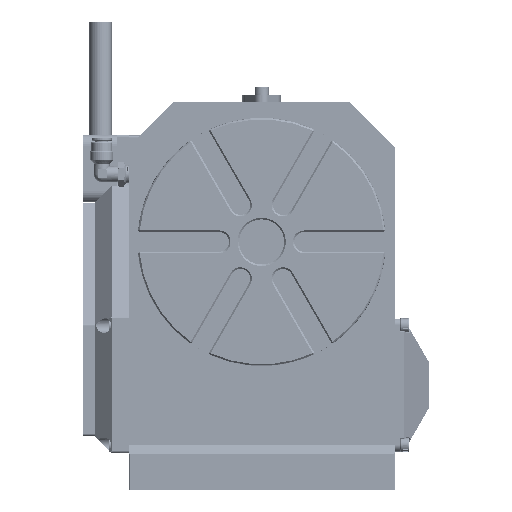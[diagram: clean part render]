
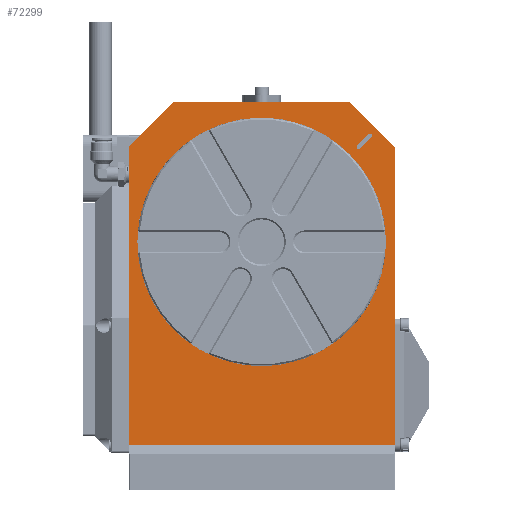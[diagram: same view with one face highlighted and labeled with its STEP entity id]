
A CAD part, front view. The second image highlights one B-rep face of the part: STEP entity #72299.
In plain terms, the highlighted planar face has unit normal (0, -1, 0).
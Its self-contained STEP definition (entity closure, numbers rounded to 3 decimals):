
#2503=FACE_BOUND('',#11173,.T.);
#2504=FACE_BOUND('',#11174,.T.);
#3218=CIRCLE('',#76904,0.05);
#3220=CIRCLE('',#76908,0.05);
#3231=CIRCLE('',#76939,2.755);
#6859=FACE_OUTER_BOUND('',#11172,.T.);
#11172=EDGE_LOOP('',(#48394,#48395,#48396,#48397,#48398,#48399));
#11173=EDGE_LOOP('',(#48400,#48401,#48402,#48403));
#11174=EDGE_LOOP('',(#48404));
#16074=LINE('',#107936,#23067);
#16089=LINE('',#107973,#23082);
#16123=LINE('',#108142,#23116);
#16128=LINE('',#108156,#23121);
#16150=LINE('',#108311,#23143);
#16152=LINE('',#108315,#23145);
#16155=LINE('',#108320,#23148);
#16156=LINE('',#108321,#23149);
#23067=VECTOR('',#84868,0.394);
#23082=VECTOR('',#84899,0.394);
#23116=VECTOR('',#85095,0.394);
#23121=VECTOR('',#85108,0.394);
#23143=VECTOR('',#85202,0.394);
#23145=VECTOR('',#85206,0.394);
#23148=VECTOR('',#85211,0.394);
#23149=VECTOR('',#85212,0.394);
#30058=VERTEX_POINT('',#107933);
#30059=VERTEX_POINT('',#107935);
#30072=VERTEX_POINT('',#107970);
#30073=VERTEX_POINT('',#107972);
#30126=VERTEX_POINT('',#108140);
#30127=VERTEX_POINT('',#108141);
#30130=VERTEX_POINT('',#108149);
#30132=VERTEX_POINT('',#108155);
#30154=VERTEX_POINT('',#108301);
#30157=VERTEX_POINT('',#108310);
#30158=VERTEX_POINT('',#108314);
#37272=EDGE_CURVE('',#30058,#30059,#16074,.T.);
#37291=EDGE_CURVE('',#30072,#30073,#16089,.T.);
#37366=EDGE_CURVE('',#30126,#30127,#16123,.T.);
#37370=EDGE_CURVE('',#30130,#30126,#3218,.T.);
#37373=EDGE_CURVE('',#30132,#30130,#16128,.T.);
#37376=EDGE_CURVE('',#30127,#30132,#3220,.T.);
#37408=EDGE_CURVE('',#30154,#30154,#3231,.T.);
#37412=EDGE_CURVE('',#30073,#30157,#16150,.T.);
#37414=EDGE_CURVE('',#30157,#30158,#16152,.T.);
#37417=EDGE_CURVE('',#30059,#30072,#16155,.T.);
#37418=EDGE_CURVE('',#30158,#30058,#16156,.T.);
#48394=ORIENTED_EDGE('',*,*,#37412,.F.);
#48395=ORIENTED_EDGE('',*,*,#37291,.F.);
#48396=ORIENTED_EDGE('',*,*,#37417,.F.);
#48397=ORIENTED_EDGE('',*,*,#37272,.F.);
#48398=ORIENTED_EDGE('',*,*,#37418,.F.);
#48399=ORIENTED_EDGE('',*,*,#37414,.F.);
#48400=ORIENTED_EDGE('',*,*,#37366,.T.);
#48401=ORIENTED_EDGE('',*,*,#37376,.T.);
#48402=ORIENTED_EDGE('',*,*,#37373,.T.);
#48403=ORIENTED_EDGE('',*,*,#37370,.T.);
#48404=ORIENTED_EDGE('',*,*,#37408,.T.);
#69849=PLANE('',#76944);
#72299=ADVANCED_FACE('',(#6859,#2503,#2504),#69849,.T.);
#76904=AXIS2_PLACEMENT_3D('',#108150,#85101,#85102);
#76908=AXIS2_PLACEMENT_3D('',#108161,#85113,#85114);
#76939=AXIS2_PLACEMENT_3D('',#108302,#85192,#85193);
#76944=AXIS2_PLACEMENT_3D('',#108319,#85209,#85210);
#84868=DIRECTION('',(0.,0.,-1.));
#84899=DIRECTION('',(0.,0.,1.));
#85095=DIRECTION('',(-0.707,0.,-0.707));
#85101=DIRECTION('center_axis',(0.,1.,0.));
#85102=DIRECTION('ref_axis',(0.707,0.,-0.707));
#85108=DIRECTION('',(0.707,0.,0.707));
#85113=DIRECTION('center_axis',(0.,1.,0.));
#85114=DIRECTION('ref_axis',(-0.707,0.,0.707));
#85192=DIRECTION('center_axis',(0.,1.,0.));
#85193=DIRECTION('ref_axis',(1.,0.,0.));
#85202=DIRECTION('',(0.707,0.,0.707));
#85206=DIRECTION('',(1.,0.,0.));
#85209=DIRECTION('center_axis',(0.,-1.,0.));
#85210=DIRECTION('ref_axis',(0.,0.,-1.));
#85211=DIRECTION('',(-1.,0.,0.));
#85212=DIRECTION('',(0.707,0.,-0.707));
#107933=CARTESIAN_POINT('',(2.95,0.,2.15));
#107935=CARTESIAN_POINT('',(2.95,0.,-4.45));
#107936=CARTESIAN_POINT('',(2.95,0.,-5.45));
#107970=CARTESIAN_POINT('',(-2.95,0.,-4.45));
#107972=CARTESIAN_POINT('',(-2.95,0.,2.15));
#107973=CARTESIAN_POINT('',(-2.95,0.,-5.45));
#108140=CARTESIAN_POINT('',(2.44,0.,2.369));
#108141=CARTESIAN_POINT('',(2.192,0.,2.121));
#108142=CARTESIAN_POINT('',(2.025,0.,1.954));
#108149=CARTESIAN_POINT('',(2.369,0.,2.44));
#108150=CARTESIAN_POINT('Origin',(2.404,0.,
2.404));
#108155=CARTESIAN_POINT('',(2.121,0.,2.192));
#108156=CARTESIAN_POINT('',(1.83,0.,1.901));
#108161=CARTESIAN_POINT('Origin',(2.157,0.,
2.157));
#108301=CARTESIAN_POINT('',(-2.755,0.,0.05));
#108302=CARTESIAN_POINT('Origin',(0.,0.,0.05));
#108310=CARTESIAN_POINT('',(-1.95,0.,3.15));
#108311=CARTESIAN_POINT('',(-1.713,0.,3.388));
#108314=CARTESIAN_POINT('',(1.95,0.,3.15));
#108315=CARTESIAN_POINT('',(0.,0.,3.15));
#108319=CARTESIAN_POINT('Origin',(0.,0.,3.15));
#108320=CARTESIAN_POINT('',(0.,0.,-4.45));
#108321=CARTESIAN_POINT('',(1.713,0.,3.388));
